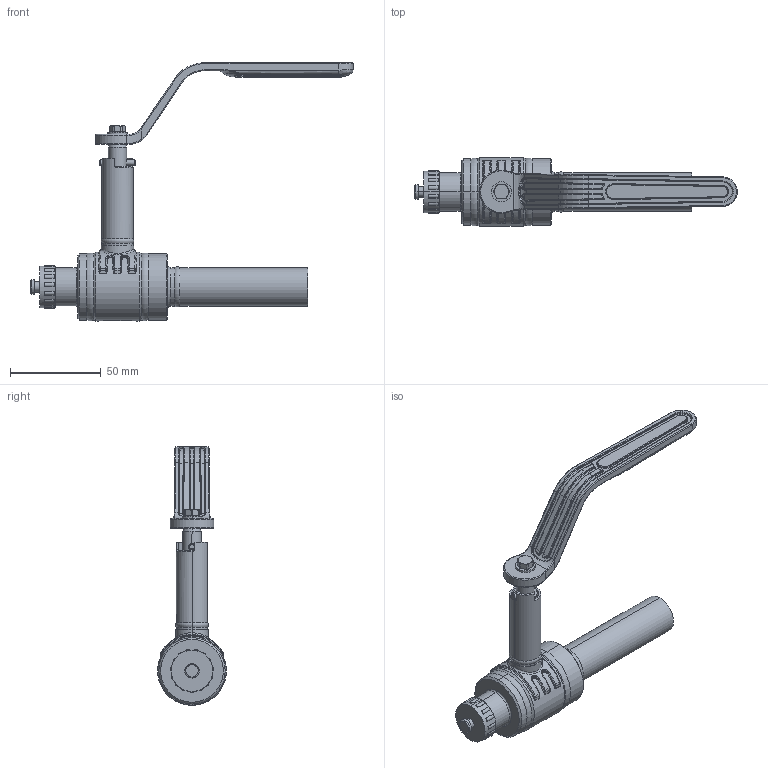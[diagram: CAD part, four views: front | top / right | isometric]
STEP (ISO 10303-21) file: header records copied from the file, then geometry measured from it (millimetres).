
FILE_DESCRIPTION((''),'2;1');
FILE_NAME('KHMO-SZ-V-H-015P040-V_SW0001','2022-10-18T15:08:38',('jeitlers'),('KLINGER'),'CREO PARAMETRIC BY PTC INC, 2020184','CREO PARAMETRIC BY PTC INC, 2020184','');
FILE_SCHEMA(('AUTOMOTIVE_DESIGN { 1 0 10303 214 1 1 1 1 }'));
Length unit declared in the file: millimetre
Products named in the file (1): KHMO-SZ-V-H-015P040-V_SW0001
Bounding box: 177.8 x 38 x 142.6 mm (x, y, z)
Volume: 84011.2 mm3; surface area: 43834.8 mm2
Topology: 1 solids, 1 shells, 686 faces, 1608 edges, 937 vertices
Faces by surface type: cylinder 241, bspline 157, plane 119, torus 90, cone 62, sphere 12, extrusion 5
Entity records: 42926 total; most frequent: CARTESIAN_POINT 27402, ORIENTED_EDGE 3210, DIRECTION 2964, EDGE_CURVE 1605, AXIS2_PLACEMENT_3D 1241, VERTEX_POINT 937, EDGE_LOOP 716, CIRCLE 704
